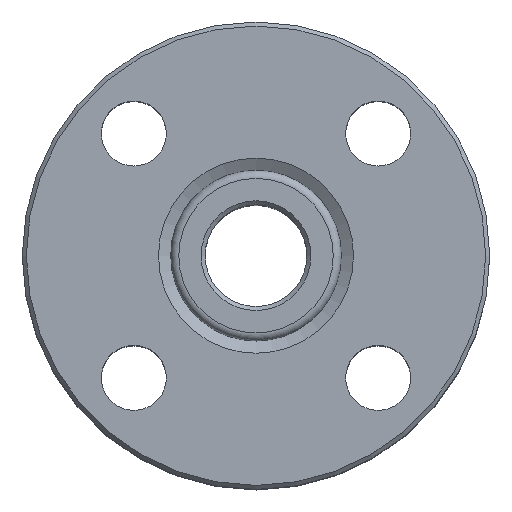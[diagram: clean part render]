
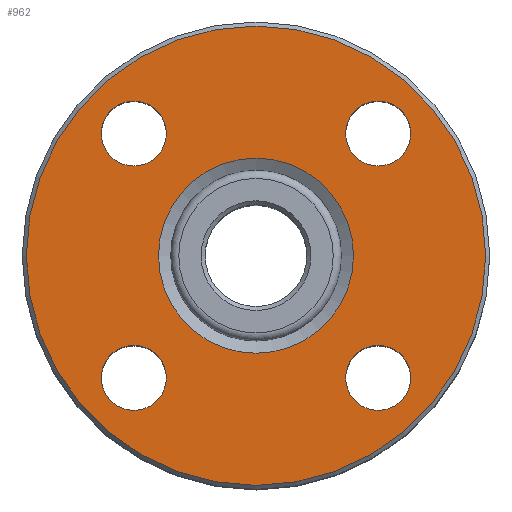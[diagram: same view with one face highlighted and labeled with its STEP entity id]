
A CAD part, top view. The second image highlights one B-rep face of the part: STEP entity #962.
In plain terms, the highlighted planar face has unit normal (0, 0, 1).
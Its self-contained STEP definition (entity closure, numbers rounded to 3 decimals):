
#962=ADVANCED_FACE('',(#2955,#2957,#2959,#2961,#2963,#2965),#2967,.F.);
#2955=FACE_BOUND('',#2956,.T.);
#2956=EDGE_LOOP('',(#3506));
#2957=FACE_BOUND('',#2958,.T.);
#2958=EDGE_LOOP('',(#3507));
#2959=FACE_BOUND('',#2960,.T.);
#2960=EDGE_LOOP('',(#3508));
#2961=FACE_BOUND('',#2962,.T.);
#2962=EDGE_LOOP('',(#3509));
#2963=FACE_BOUND('',#2964,.T.);
#2964=EDGE_LOOP('',(#3510));
#2965=FACE_BOUND('',#2966,.T.);
#2966=EDGE_LOOP('',(#3511));
#2967=PLANE('',#2968);
#2968=AXIS2_PLACEMENT_3D('',#2969,#2970,#2971);
#2969=CARTESIAN_POINT('',(0.,0.,41.));
#2970=DIRECTION('',(0.,0.,-1.));
#2971=DIRECTION('',(-1.,0.,0.));
#3506=ORIENTED_EDGE('',*,*,#3770,.F.);
#3507=ORIENTED_EDGE('',*,*,#3771,.F.);
#3508=ORIENTED_EDGE('',*,*,#3772,.F.);
#3509=ORIENTED_EDGE('',*,*,#3773,.F.);
#3510=ORIENTED_EDGE('',*,*,#3774,.F.);
#3511=ORIENTED_EDGE('',*,*,#3775,.T.);
#3770=EDGE_CURVE('',#4185,#4185,#4186,.T.);
#3771=EDGE_CURVE('',#4187,#4187,#4188,.T.);
#3772=EDGE_CURVE('',#4189,#4189,#4190,.T.);
#3773=EDGE_CURVE('',#4191,#4191,#4192,.T.);
#3774=EDGE_CURVE('',#4193,#4193,#4194,.T.);
#3775=EDGE_CURVE('',#4195,#4195,#4196,.T.);
#4185=VERTEX_POINT('',#8610);
#4186=CIRCLE('',#8611,56.5);
#4187=VERTEX_POINT('',#8615);
#4188=CIRCLE('',#8616,8.);
#4189=VERTEX_POINT('',#8620);
#4190=CIRCLE('',#8621,8.);
#4191=VERTEX_POINT('',#8625);
#4192=CIRCLE('',#8626,8.);
#4193=VERTEX_POINT('',#8630);
#4194=CIRCLE('',#8631,8.);
#4195=VERTEX_POINT('',#8635);
#4196=CIRCLE('',#8636,24.);
#8610=CARTESIAN_POINT('',(-56.5,0.,41.));
#8611=AXIS2_PLACEMENT_3D('',#8612,#8613,#8614);
#8612=CARTESIAN_POINT('',(0.,0.,41.));
#8613=DIRECTION('',(0.,0.,-1.));
#8614=DIRECTION('',(-1.,0.,0.));
#8615=CARTESIAN_POINT('',(-38.052,30.052,41.));
#8616=AXIS2_PLACEMENT_3D('',#8617,#8618,#8619);
#8617=CARTESIAN_POINT('',(-30.052,30.052,41.));
#8618=DIRECTION('',(0.,0.,1.));
#8619=DIRECTION('',(-1.,0.,0.));
#8620=CARTESIAN_POINT('',(-38.052,-30.052,41.));
#8621=AXIS2_PLACEMENT_3D('',#8622,#8623,#8624);
#8622=CARTESIAN_POINT('',(-30.052,-30.052,41.));
#8623=DIRECTION('',(0.,0.,1.));
#8624=DIRECTION('',(-1.,0.,0.));
#8625=CARTESIAN_POINT('',(22.052,-30.052,41.));
#8626=AXIS2_PLACEMENT_3D('',#8627,#8628,#8629);
#8627=CARTESIAN_POINT('',(30.052,-30.052,41.));
#8628=DIRECTION('',(0.,0.,1.));
#8629=DIRECTION('',(-1.,0.,0.));
#8630=CARTESIAN_POINT('',(22.052,30.052,41.));
#8631=AXIS2_PLACEMENT_3D('',#8632,#8633,#8634);
#8632=CARTESIAN_POINT('',(30.052,30.052,41.));
#8633=DIRECTION('',(0.,0.,1.));
#8634=DIRECTION('',(-1.,0.,0.));
#8635=CARTESIAN_POINT('',(0.,-24.,41.));
#8636=AXIS2_PLACEMENT_3D('',#8637,#8638,#8639);
#8637=CARTESIAN_POINT('',(0.,0.,41.));
#8638=DIRECTION('',(0.,0.,-1.));
#8639=DIRECTION('',(0.,-1.,0.));
